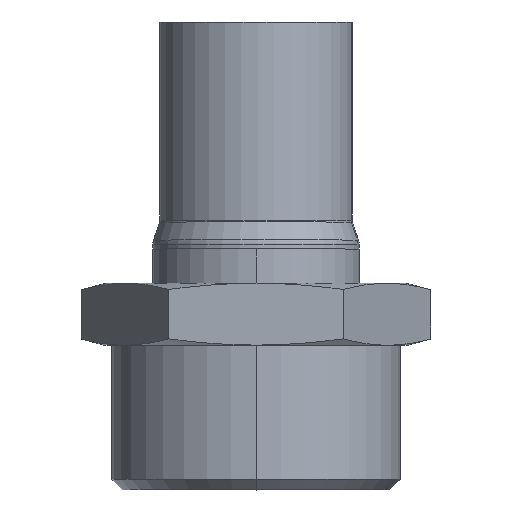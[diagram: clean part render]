
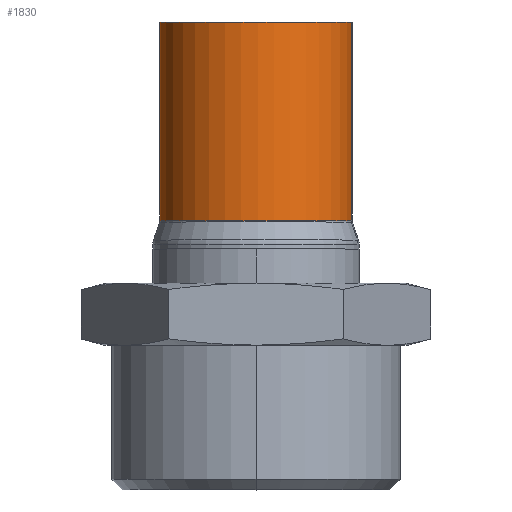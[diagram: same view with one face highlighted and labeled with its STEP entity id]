
A CAD part, top view. The second image highlights one B-rep face of the part: STEP entity #1830.
In plain terms, the highlighted cylindrical face has radius 14 mm (diameter 28 mm), a partial arc.
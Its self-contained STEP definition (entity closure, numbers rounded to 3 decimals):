
#51 = CARTESIAN_POINT ( 'NONE',  ( -1.55, 0., 14. ) ) ;
#76 = VECTOR ( 'NONE', #517, 1000. ) ;
#90 = EDGE_LOOP ( 'NONE', ( #1752, #1659, #547, #1799 ) ) ;
#92 = EDGE_CURVE ( 'NONE', #1450, #1806, #516, .T. ) ;
#127 = CARTESIAN_POINT ( 'NONE',  ( 28.919, 0., -14. ) ) ;
#191 = CARTESIAN_POINT ( 'NONE',  ( 0., 0., -14. ) ) ;
#224 = EDGE_CURVE ( 'NONE', #1391, #1188, #1033, .T. ) ;
#401 = CARTESIAN_POINT ( 'NONE',  ( 28.919, 0., 0. ) ) ;
#516 = LINE ( 'NONE', #51, #76 ) ;
#517 = DIRECTION ( 'NONE',  ( -1., 0., 0. ) ) ;
#547 = ORIENTED_EDGE ( 'NONE', *, *, #92, .T. ) ;
#606 = CARTESIAN_POINT ( 'NONE',  ( 0., 0., 0. ) ) ;
#761 = DIRECTION ( 'NONE',  ( 0., 0., 1. ) ) ;
#785 = AXIS2_PLACEMENT_3D ( 'NONE', #974, #1839, #1402 ) ;
#819 = DIRECTION ( 'NONE',  ( -1., 0., 0. ) ) ;
#897 = AXIS2_PLACEMENT_3D ( 'NONE', #606, #1366, #761 ) ;
#963 = CIRCLE ( 'NONE', #897, 14. ) ;
#974 = CARTESIAN_POINT ( 'NONE',  ( -1.55, 0., 0. ) ) ;
#1010 = EDGE_CURVE ( 'NONE', #1188, #1806, #963, .T. ) ;
#1033 = LINE ( 'NONE', #1734, #1733 ) ;
#1082 = AXIS2_PLACEMENT_3D ( 'NONE', #401, #1757, #1461 ) ;
#1098 = CIRCLE ( 'NONE', #1082, 14. ) ;
#1188 = VERTEX_POINT ( 'NONE', #191 ) ;
#1231 = CARTESIAN_POINT ( 'NONE',  ( 0., 0., 14. ) ) ;
#1340 = CYLINDRICAL_SURFACE ( 'NONE', #785, 14. ) ;
#1366 = DIRECTION ( 'NONE',  ( -1., 0., 0. ) ) ;
#1391 = VERTEX_POINT ( 'NONE', #127 ) ;
#1402 = DIRECTION ( 'NONE',  ( 0., 0., 1. ) ) ;
#1450 = VERTEX_POINT ( 'NONE', #1891 ) ;
#1455 = EDGE_CURVE ( 'NONE', #1391, #1450, #1098, .T. ) ;
#1461 = DIRECTION ( 'NONE',  ( 0., 0., 1. ) ) ;
#1659 = ORIENTED_EDGE ( 'NONE', *, *, #1455, .T. ) ;
#1733 = VECTOR ( 'NONE', #819, 1000. ) ;
#1734 = CARTESIAN_POINT ( 'NONE',  ( -1.55, 0., -14. ) ) ;
#1737 = FACE_OUTER_BOUND ( 'NONE', #90, .T. ) ;
#1752 = ORIENTED_EDGE ( 'NONE', *, *, #224, .F. ) ;
#1757 = DIRECTION ( 'NONE',  ( -1., 0., 0. ) ) ;
#1799 = ORIENTED_EDGE ( 'NONE', *, *, #1010, .F. ) ;
#1806 = VERTEX_POINT ( 'NONE', #1231 ) ;
#1830 = ADVANCED_FACE ( 'NONE', ( #1737 ), #1340, .T. ) ;
#1839 = DIRECTION ( 'NONE',  ( -1., 0., 0. ) ) ;
#1891 = CARTESIAN_POINT ( 'NONE',  ( 28.919, 0., 14. ) ) ;
